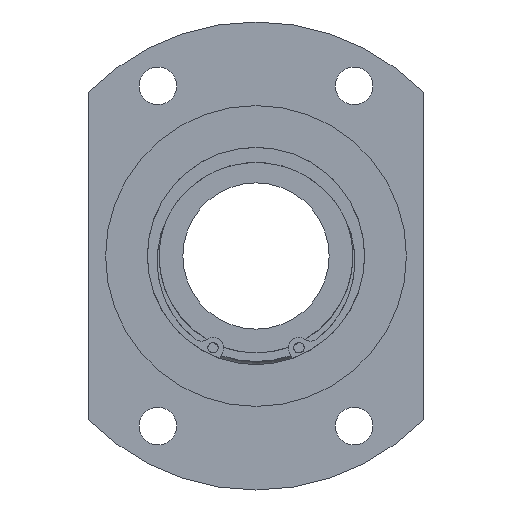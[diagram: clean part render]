
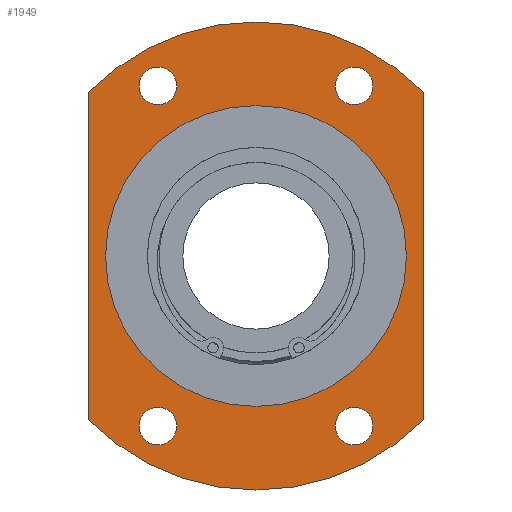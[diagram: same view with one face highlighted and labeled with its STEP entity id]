
A CAD part, left-side view. The second image highlights one B-rep face of the part: STEP entity #1949.
In plain terms, the highlighted planar face has unit normal (-1, 0, 0).
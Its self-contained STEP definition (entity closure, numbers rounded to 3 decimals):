
#1709=CARTESIAN_POINT('',(13.0,28.,-40.703));
#1710=VERTEX_POINT('',#1709);
#1711=CARTESIAN_POINT('',(13.,23.5,-40.703));
#1712=DIRECTION('',(1.0,0.0,0.0));
#1713=DIRECTION('',(0.0,1.0,0.0));
#1714=AXIS2_PLACEMENT_3D('',#1711,#1712,#1713);
#1715=CIRCLE('',#1714,4.5);
#1716=EDGE_CURVE('',#1710,#1710,#1715,.T.);
#1737=CARTESIAN_POINT('',(13.0,-19.0,40.703));
#1738=VERTEX_POINT('',#1737);
#1739=CARTESIAN_POINT('',(13.,-23.5,40.703));
#1740=DIRECTION('',(1.0,0.0,0.0));
#1741=DIRECTION('',(0.0,1.0,0.0));
#1742=AXIS2_PLACEMENT_3D('',#1739,#1740,#1741);
#1743=CIRCLE('',#1742,4.5);
#1744=EDGE_CURVE('',#1738,#1738,#1743,.T.);
#1765=CARTESIAN_POINT('',(13.0,28.,40.703));
#1766=VERTEX_POINT('',#1765);
#1767=CARTESIAN_POINT('',(13.,23.5,40.703));
#1768=DIRECTION('',(1.0,0.0,0.0));
#1769=DIRECTION('',(0.0,1.0,0.0));
#1770=AXIS2_PLACEMENT_3D('',#1767,#1768,#1769);
#1771=CIRCLE('',#1770,4.5);
#1772=EDGE_CURVE('',#1766,#1766,#1771,.T.);
#1793=CARTESIAN_POINT('',(13.0,-19.,-40.703));
#1794=VERTEX_POINT('',#1793);
#1795=CARTESIAN_POINT('',(13.,-23.5,-40.703));
#1796=DIRECTION('',(1.0,0.0,0.0));
#1797=DIRECTION('',(0.0,1.0,0.0));
#1798=AXIS2_PLACEMENT_3D('',#1795,#1796,#1797);
#1799=CIRCLE('',#1798,4.5);
#1800=EDGE_CURVE('',#1794,#1794,#1799,.T.);
#1820=CARTESIAN_POINT('',(13.0,40.,-39.192));
#1821=VERTEX_POINT('',#1820);
#1828=CARTESIAN_POINT('',(13.0,40.,39.192));
#1829=VERTEX_POINT('',#1828);
#1830=CARTESIAN_POINT('',(13.0,40.,39.192));
#1831=DIRECTION('',(0.0,0.0,-1.0));
#1832=VECTOR('',#1831,78.384);
#1833=LINE('',#1830,#1832);
#1834=EDGE_CURVE('',#1829,#1821,#1833,.T.);
#1860=CARTESIAN_POINT('',(13.0,-40.0,39.192));
#1861=VERTEX_POINT('',#1860);
#1868=CARTESIAN_POINT('',(13.0,-40.,-39.192));
#1869=VERTEX_POINT('',#1868);
#1870=CARTESIAN_POINT('',(13.0,-40.,-39.192));
#1871=DIRECTION('',(0.0,0.0,1.0));
#1872=VECTOR('',#1871,78.384);
#1873=LINE('',#1870,#1872);
#1874=EDGE_CURVE('',#1869,#1861,#1873,.T.);
#1899=CARTESIAN_POINT('',(13.,0.0,0.0));
#1900=DIRECTION('',(-1.0,0.0,0.0));
#1901=DIRECTION('',(0.0,0.0,1.0));
#1902=AXIS2_PLACEMENT_3D('',#1899,#1900,#1901);
#1903=CIRCLE('',#1902,56.);
#1904=EDGE_CURVE('',#1821,#1869,#1903,.T.);
#1909=CARTESIAN_POINT('',(13.,0.0,46.));
#1910=DIRECTION('',(-1.0,0.0,0.0));
#1911=DIRECTION('',(0.0,0.0,1.0));
#1912=AXIS2_PLACEMENT_3D('',#1909,#1910,#1911);
#1913=PLANE('',#1912);
#1914=ORIENTED_EDGE('',*,*,#1834,.T.);
#1915=ORIENTED_EDGE('',*,*,#1904,.T.);
#1916=ORIENTED_EDGE('',*,*,#1874,.T.);
#1917=CARTESIAN_POINT('',(13.,0.0,0.0));
#1918=DIRECTION('',(-1.0,0.0,0.0));
#1919=DIRECTION('',(0.0,0.0,1.0));
#1920=AXIS2_PLACEMENT_3D('',#1917,#1918,#1919);
#1921=CIRCLE('',#1920,56.);
#1922=EDGE_CURVE('',#1861,#1829,#1921,.T.);
#1923=ORIENTED_EDGE('',*,*,#1922,.T.);
#1924=EDGE_LOOP('',(#1914,#1915,#1916,#1923));
#1925=FACE_OUTER_BOUND('',#1924,.T.);
#1926=ORIENTED_EDGE('',*,*,#1716,.T.);
#1927=EDGE_LOOP('',(#1926));
#1928=FACE_BOUND('',#1927,.T.);
#1929=ORIENTED_EDGE('',*,*,#1744,.T.);
#1930=EDGE_LOOP('',(#1929));
#1931=FACE_BOUND('',#1930,.T.);
#1932=ORIENTED_EDGE('',*,*,#1772,.T.);
#1933=EDGE_LOOP('',(#1932));
#1934=FACE_BOUND('',#1933,.T.);
#1935=ORIENTED_EDGE('',*,*,#1800,.T.);
#1936=EDGE_LOOP('',(#1935));
#1937=FACE_BOUND('',#1936,.T.);
#1938=CARTESIAN_POINT('',(13.,0.0,36.));
#1939=VERTEX_POINT('',#1938);
#1940=CARTESIAN_POINT('',(13.,0.0,0.0));
#1941=DIRECTION('',(-1.0,0.0,0.0));
#1942=DIRECTION('',(0.0,0.0,1.0));
#1943=AXIS2_PLACEMENT_3D('',#1940,#1941,#1942);
#1944=CIRCLE('',#1943,36.);
#1945=EDGE_CURVE('',#1939,#1939,#1944,.T.);
#1946=ORIENTED_EDGE('',*,*,#1945,.F.);
#1947=EDGE_LOOP('',(#1946));
#1948=FACE_BOUND('',#1947,.T.);
#1949=ADVANCED_FACE('',(#1925,#1928,#1931,#1934,#1937,#1948),#1913,.T.);
